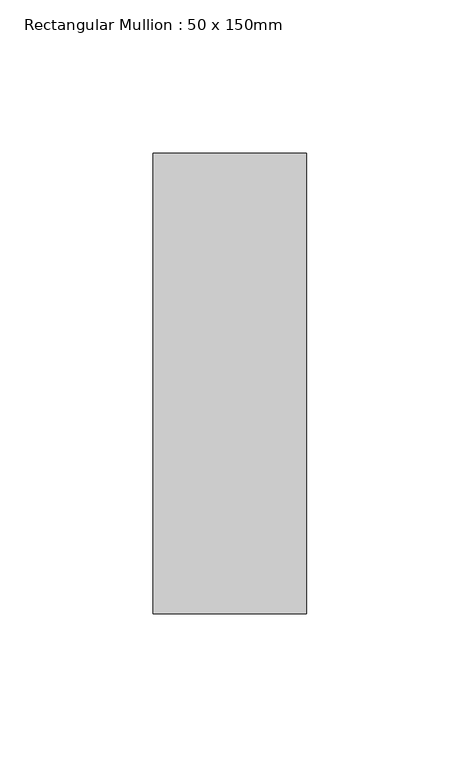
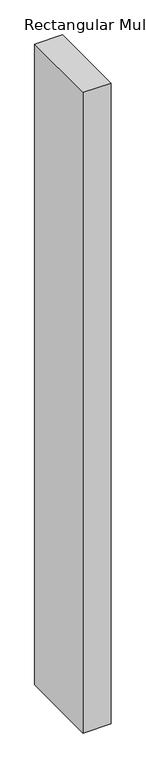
"""IFC4 building model written with IfcOpenShell, lengths in millimetres: member geometry, Rectangular Mullion : 50 x 150mm."""

from ifc_helpers import new_model, si_unit, frame, origin, place, context, project, spatial, polyline, outline, extrude, source, transform, mapped, element, save


def rectangular_mullion_50_x_150mm_67db062b(model_context):
    return source(origin(), model_context, "Body", "SweptSolid", [
        extrude(outline(polyline([(25.0, 75.0), (25.0, -75.0), (-25.0, -75.0), (-25.0, 75.0), (25.0, 75.0)])), frame((0.0, 0.0, -1212.0), z_axis=(0.0, 0.0, 1.0), x_axis=(1.0, 0.0, 0.0)), (0.0, 0.0, 1.0), 1212.0),
    ])


if __name__ == "__main__":
    model = new_model("IFC4")
    model_context = context("Model", 3, world=origin())
    ifc_project = project(units=[si_unit("LENGTHUNIT", "METRE", prefix="MILLI")], contexts=[model_context])
    site = spatial("IfcSite", under=ifc_project)
    building = spatial("IfcBuilding", under=site)
    placement = place(None, origin())
    rectangular_mullion_50_x_150mm_shape = rectangular_mullion_50_x_150mm_67db062b(model_context)
    element("IfcMember", 1, ObjectType="Rectangular Mullion : 50 x 150mm", at=placement, inside=building, context=model_context, shape_type="MappedRepresentation", body=[
        mapped(rectangular_mullion_50_x_150mm_shape, transform((0.0, 0.0, 0.0), x_axis=(1.0, 0.0, 0.0), y_axis=(0.0, 1.0, 0.0), z_axis=(0.0, 0.0, 1.0))),
    ])
    save(model, "model.ifc")
